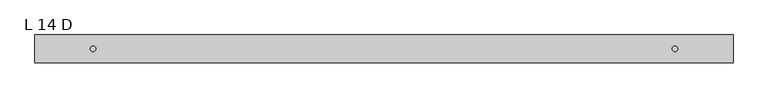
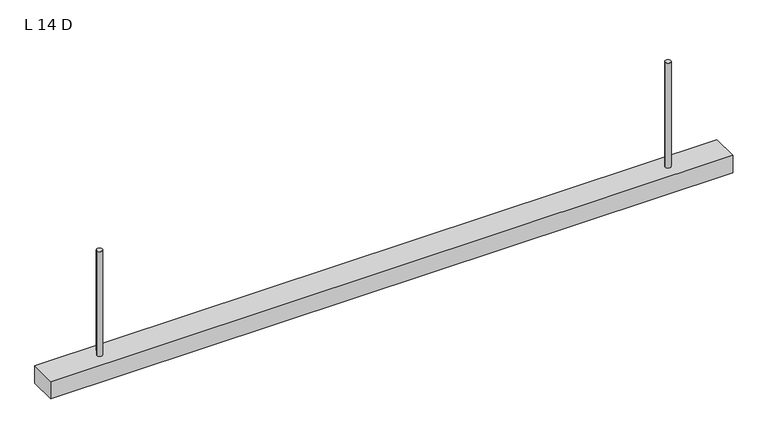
"""IFC4 building model written with IfcOpenShell, lengths in millimetres: light fixture geometry, ZYR_06.02.05 LLuminària Suspesa : L 14 D."""

from ifc_helpers import new_model, si_unit, point, frame, frame_2d, origin, origin_with_axes, place, context, project, spatial, polyline, circle_curve, trimmed, segment, composite_curve, outline, extrude, source, transform, mapped, element, save


def l_14_d_ded4ba53(model_context):
    return source(origin(), model_context, "Body", "SweptSolid", [
        extrude(outline(polyline([(1260.0, 50.0), (1260.0, -50.0), (-1260.0, -50.0), (-1260.0, 50.0), (1260.0, 50.0)])), origin_with_axes(), (0.0, 0.0, 1.0), 67.0),
        extrude(outline(composite_curve([segment(trimmed(circle_curve(frame_2d((-1050.0, 0.0)), 10.0), [point((-1060.0, 0.0))], [point((-1040.0, 0.0))], False, "CARTESIAN"), True, "CONTINUOUS"), segment(trimmed(circle_curve(frame_2d((-1050.0, 0.0)), 10.0), [point((-1040.0, 0.0))], [point((-1060.0, 0.0))], False, "CARTESIAN"), True, "CONTINUOUS")], self_intersect=False)), frame((0.0, 0.0, 67.0), z_axis=(0.0, 0.0, 1.0), x_axis=(1.0, 0.0, 0.0)), (0.0, 0.0, 1.0), 410.0),
        extrude(outline(composite_curve([segment(trimmed(circle_curve(frame_2d((1050.0, 0.0)), 10.0), [point((1040.0, 0.0))], [point((1060.0, 0.0))], False, "CARTESIAN"), True, "CONTINUOUS"), segment(trimmed(circle_curve(frame_2d((1050.0, 0.0)), 10.0), [point((1060.0, 0.0))], [point((1040.0, 0.0))], False, "CARTESIAN"), True, "CONTINUOUS")], self_intersect=False)), frame((0.0, 0.0, 67.0), z_axis=(0.0, 0.0, 1.0), x_axis=(1.0, 0.0, 0.0)), (0.0, 0.0, 1.0), 410.0),
    ])


if __name__ == "__main__":
    model = new_model("IFC4")
    model_context = context("Model", 3, world=origin())
    ifc_project = project(units=[si_unit("LENGTHUNIT", "METRE", prefix="MILLI")], contexts=[model_context])
    site = spatial("IfcSite", under=ifc_project)
    building = spatial("IfcBuilding", under=site)
    placement = place(None, origin())
    l_14_d_shape = l_14_d_ded4ba53(model_context)
    element("IfcLightFixture", 1, ObjectType="ZYR_06.02.05 LLuminària Suspesa : L 14 D", at=placement, inside=building, context=model_context, shape_type="MappedRepresentation", body=[
        mapped(l_14_d_shape, transform((0.0, 0.0, 0.0), x_axis=(1.0, 0.0, 0.0), y_axis=(0.0, 1.0, 0.0), z_axis=(0.0, 0.0, 1.0))),
    ])
    save(model, "model.ifc")
